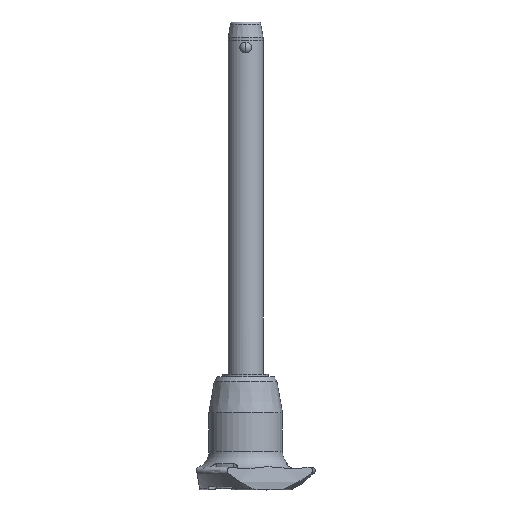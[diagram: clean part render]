
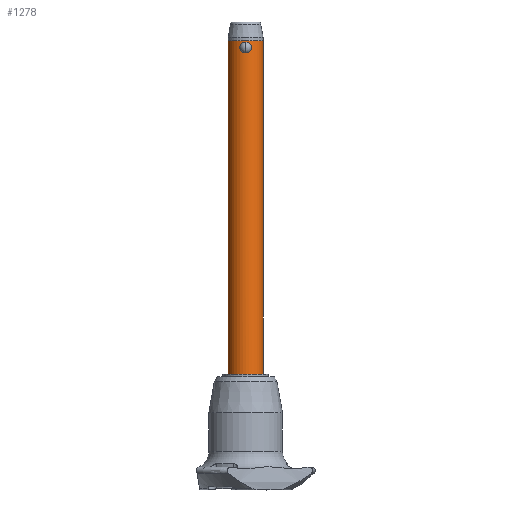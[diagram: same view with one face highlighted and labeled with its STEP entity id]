
A CAD part, front view. The second image highlights one B-rep face of the part: STEP entity #1278.
In plain terms, the highlighted cylindrical face has radius 6 mm (diameter 12 mm), a partial arc.
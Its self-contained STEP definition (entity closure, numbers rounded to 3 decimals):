
#22 = CARTESIAN_POINT ( 'NONE',  ( -0.854, -5.94, 3.53 ) ) ;
#51 = CARTESIAN_POINT ( 'NONE',  ( -0.252, -5.996, 3.697 ) ) ;
#70 = ORIENTED_EDGE ( 'NONE', *, *, #2381, .F. ) ;
#75 = CARTESIAN_POINT ( 'NONE',  ( -1.7, -5.755, 0.895 ) ) ;
#84 = ORIENTED_EDGE ( 'NONE', *, *, #2146, .F. ) ;
#98 = DIRECTION ( 'NONE',  ( 0., 0., 1. ) ) ;
#133 = CARTESIAN_POINT ( 'NONE',  ( 1.279, -5.863, 3.27 ) ) ;
#135 = VECTOR ( 'NONE', #1174, 1000. ) ;
#262 = CARTESIAN_POINT ( 'NONE',  ( -0.967, -5.923, 0.233 ) ) ;
#276 = CARTESIAN_POINT ( 'NONE',  ( -0.25, -6., 0. ) ) ;
#293 = CARTESIAN_POINT ( 'NONE',  ( -1.278, -5.863, 0.437 ) ) ;
#321 = LINE ( 'NONE', #2297, #135 ) ;
#336 = CARTESIAN_POINT ( 'NONE',  ( 1.551, -5.799, 3.018 ) ) ;
#340 = CYLINDRICAL_SURFACE ( 'NONE', #2856, 6. ) ;
#346 = CARTESIAN_POINT ( 'NONE',  ( 0.503, -5.983, 0.045 ) ) ;
#374 = CARTESIAN_POINT ( 'NONE',  ( 1.277, -5.863, 0.437 ) ) ;
#397 = CARTESIAN_POINT ( 'NONE',  ( 6., 0., -110. ) ) ;
#411 = CARTESIAN_POINT ( 'NONE',  ( -6., 0., -110. ) ) ;
#477 = CIRCLE ( 'NONE', #2349, 6. ) ;
#494 = CARTESIAN_POINT ( 'NONE',  ( 0., -6., 0. ) ) ;
#505 = CARTESIAN_POINT ( 'NONE',  ( 0., -6., 3.708 ) ) ;
#517 = CARTESIAN_POINT ( 'NONE',  ( -1.9, -5.692, 2.359 ) ) ;
#528 = DIRECTION ( 'NONE',  ( 1., 0., 0. ) ) ;
#552 = EDGE_CURVE ( 'NONE', #1038, #1584, #1776, .T. ) ;
#556 = CARTESIAN_POINT ( 'NONE',  ( 1.942, -5.677, 2.103 ) ) ;
#564 = VECTOR ( 'NONE', #1305, 1000. ) ;
#571 = CARTESIAN_POINT ( 'NONE',  ( 0., -6., 3.708 ) ) ;
#602 = CARTESIAN_POINT ( 'NONE',  ( 0., 0., -110. ) ) ;
#639 = EDGE_CURVE ( 'NONE', #1584, #1038, #1280, .T. ) ;
#692 = CARTESIAN_POINT ( 'NONE',  ( -1.687, -5.759, 2.809 ) ) ;
#788 = CARTESIAN_POINT ( 'NONE',  ( 0.498, -5.981, 3.652 ) ) ;
#818 = CARTESIAN_POINT ( 'NONE',  ( 1.178, -5.884, 3.346 ) ) ;
#822 = DIRECTION ( 'NONE',  ( 0., 0., -1. ) ) ;
#838 = VERTEX_POINT ( 'NONE', #1122 ) ;
#930 = CARTESIAN_POINT ( 'NONE',  ( -1.89, -5.695, 1.358 ) ) ;
#947 = CARTESIAN_POINT ( 'NONE',  ( -0.853, -5.94, 0.177 ) ) ;
#962 = CARTESIAN_POINT ( 'NONE',  ( -0.966, -5.923, 3.476 ) ) ;
#976 = CARTESIAN_POINT ( 'NONE',  ( 6., 0., -110. ) ) ;
#1017 = FACE_BOUND ( 'NONE', #1953, .T. ) ;
#1038 = VERTEX_POINT ( 'NONE', #1448 ) ;
#1122 = CARTESIAN_POINT ( 'NONE',  ( -6., 0., 4.24 ) ) ;
#1173 = CARTESIAN_POINT ( 'NONE',  ( 0., -6., 0. ) ) ;
#1174 = DIRECTION ( 'NONE',  ( 0., 0., 1. ) ) ;
#1189 = CARTESIAN_POINT ( 'NONE',  ( -1.179, -5.884, 0.363 ) ) ;
#1214 = CARTESIAN_POINT ( 'NONE',  ( 0.252, -5.996, 3.697 ) ) ;
#1228 = CARTESIAN_POINT ( 'NONE',  ( 1.89, -5.695, 2.349 ) ) ;
#1251 = CARTESIAN_POINT ( 'NONE',  ( 0.127, -6., 3.708 ) ) ;
#1278 = ADVANCED_FACE ( 'NONE', ( #2614, #1017 ), #340, .T. ) ;
#1280 = B_SPLINE_CURVE_WITH_KNOTS ( 'NONE', 3,
 ( #494, #1388, #346, #1466, #2337, #2569, #374, #2154, #2130, #1935, #2830, #1712, #2607, #1489, #556, #1228, #1683, #1700, #336, #133, #818, #2141, #2583, #1451, #788, #1214, #1251, #571 ),
 .UNSPECIFIED., .F., .F.,
 ( 4, 2, 2, 2, 2, 2, 2, 2, 2, 2, 2, 2, 2, 4 ),
 ( 0.006, 0.007, 0.007, 0.008, 0.008, 0.008, 0.009, 0.009, 0.01, 0.011, 0.011, 0.011, 0.012, 0.012 ),
 .UNSPECIFIED. ) ;
#1305 = DIRECTION ( 'NONE',  ( 0., 0., 1. ) ) ;
#1388 = CARTESIAN_POINT ( 'NONE',  ( 0.25, -6., 0. ) ) ;
#1401 = CARTESIAN_POINT ( 'NONE',  ( -1.177, -5.884, 3.347 ) ) ;
#1414 = CARTESIAN_POINT ( 'NONE',  ( -1.942, -5.677, 1.604 ) ) ;
#1448 = CARTESIAN_POINT ( 'NONE',  ( 0., -6., 3.708 ) ) ;
#1451 = CARTESIAN_POINT ( 'NONE',  ( 0.62, -5.969, 3.619 ) ) ;
#1466 = CARTESIAN_POINT ( 'NONE',  ( 0.853, -5.94, 0.177 ) ) ;
#1489 = CARTESIAN_POINT ( 'NONE',  ( 1.955, -5.673, 1.979 ) ) ;
#1514 = LINE ( 'NONE', #397, #564 ) ;
#1584 = VERTEX_POINT ( 'NONE', #2552 ) ;
#1586 = CARTESIAN_POINT ( 'NONE',  ( -1.551, -5.799, 0.69 ) ) ;
#1607 = CARTESIAN_POINT ( 'NONE',  ( -1.75, -5.74, 2.7 ) ) ;
#1623 = CARTESIAN_POINT ( 'NONE',  ( -1.46, -5.821, 3.103 ) ) ;
#1683 = CARTESIAN_POINT ( 'NONE',  ( 1.851, -5.708, 2.47 ) ) ;
#1700 = CARTESIAN_POINT ( 'NONE',  ( 1.7, -5.755, 2.812 ) ) ;
#1712 = CARTESIAN_POINT ( 'NONE',  ( 1.901, -5.692, 1.35 ) ) ;
#1726 = DIRECTION ( 'NONE',  ( 0., 0., 1. ) ) ;
#1745 = CARTESIAN_POINT ( 'NONE',  ( 0., 0., -110. ) ) ;
#1776 = B_SPLINE_CURVE_WITH_KNOTS ( 'NONE', 3,
 ( #505, #2707, #51, #2530, #1811, #22, #962, #1401, #2285, #1623, #2269, #692, #1607, #517, #2517, #2743, #1414, #930, #2313, #75, #1586, #293, #1189, #262, #947, #1868, #276, #1173 ),
 .UNSPECIFIED., .F., .F.,
 ( 4, 2, 2, 2, 2, 2, 2, 2, 2, 2, 2, 2, 2, 4 ),
 ( 0., 0., 0.001, 0.001, 0.002, 0.002, 0.002, 0.003, 0.003, 0.004, 0.005, 0.005, 0.005, 0.006 ),
 .UNSPECIFIED. ) ;
#1811 = CARTESIAN_POINT ( 'NONE',  ( -0.62, -5.969, 3.619 ) ) ;
#1823 = EDGE_LOOP ( 'NONE', ( #70, #84, #1984, #2029 ) ) ;
#1868 = CARTESIAN_POINT ( 'NONE',  ( -0.504, -5.983, 0.045 ) ) ;
#1892 = VERTEX_POINT ( 'NONE', #411 ) ;
#1894 = CARTESIAN_POINT ( 'NONE',  ( 6., 0., 4.24 ) ) ;
#1902 = ORIENTED_EDGE ( 'NONE', *, *, #639, .F. ) ;
#1908 = DIRECTION ( 'NONE',  ( 1., 0., 0. ) ) ;
#1933 = EDGE_CURVE ( 'NONE', #2451, #2473, #1514, .T. ) ;
#1935 = CARTESIAN_POINT ( 'NONE',  ( 1.687, -5.758, 0.899 ) ) ;
#1953 = EDGE_LOOP ( 'NONE', ( #2880, #1902 ) ) ;
#1964 = DIRECTION ( 'NONE',  ( 1., 0., 0. ) ) ;
#1984 = ORIENTED_EDGE ( 'NONE', *, *, #1933, .T. ) ;
#2029 = ORIENTED_EDGE ( 'NONE', *, *, #2134, .F. ) ;
#2076 = AXIS2_PLACEMENT_3D ( 'NONE', #1745, #822, #528 ) ;
#2130 = CARTESIAN_POINT ( 'NONE',  ( 1.543, -5.799, 0.699 ) ) ;
#2134 = EDGE_CURVE ( 'NONE', #838, #2473, #477, .T. ) ;
#2141 = CARTESIAN_POINT ( 'NONE',  ( 0.966, -5.923, 3.476 ) ) ;
#2146 = EDGE_CURVE ( 'NONE', #2451, #1892, #2441, .T. ) ;
#2154 = CARTESIAN_POINT ( 'NONE',  ( 1.459, -5.821, 0.604 ) ) ;
#2269 = CARTESIAN_POINT ( 'NONE',  ( -1.541, -5.799, 3.011 ) ) ;
#2285 = CARTESIAN_POINT ( 'NONE',  ( -1.278, -5.863, 3.271 ) ) ;
#2297 = CARTESIAN_POINT ( 'NONE',  ( -6., 0., -110. ) ) ;
#2313 = CARTESIAN_POINT ( 'NONE',  ( -1.852, -5.707, 1.239 ) ) ;
#2337 = CARTESIAN_POINT ( 'NONE',  ( 0.966, -5.923, 0.232 ) ) ;
#2349 = AXIS2_PLACEMENT_3D ( 'NONE', #2835, #1726, #1964 ) ;
#2381 = EDGE_CURVE ( 'NONE', #1892, #838, #321, .T. ) ;
#2441 = CIRCLE ( 'NONE', #2076, 6. ) ;
#2451 = VERTEX_POINT ( 'NONE', #976 ) ;
#2473 = VERTEX_POINT ( 'NONE', #1894 ) ;
#2517 = CARTESIAN_POINT ( 'NONE',  ( -1.955, -5.673, 2.107 ) ) ;
#2530 = CARTESIAN_POINT ( 'NONE',  ( -0.498, -5.981, 3.652 ) ) ;
#2552 = CARTESIAN_POINT ( 'NONE',  ( 0., -6., 0. ) ) ;
#2569 = CARTESIAN_POINT ( 'NONE',  ( 1.178, -5.884, 0.362 ) ) ;
#2583 = CARTESIAN_POINT ( 'NONE',  ( 0.855, -5.94, 3.53 ) ) ;
#2607 = CARTESIAN_POINT ( 'NONE',  ( 1.955, -5.673, 1.6 ) ) ;
#2614 = FACE_OUTER_BOUND ( 'NONE', #1823, .T. ) ;
#2707 = CARTESIAN_POINT ( 'NONE',  ( -0.127, -6., 3.708 ) ) ;
#2743 = CARTESIAN_POINT ( 'NONE',  ( -1.955, -5.673, 1.731 ) ) ;
#2830 = CARTESIAN_POINT ( 'NONE',  ( 1.749, -5.74, 1.007 ) ) ;
#2835 = CARTESIAN_POINT ( 'NONE',  ( 0., 0., 4.24 ) ) ;
#2856 = AXIS2_PLACEMENT_3D ( 'NONE', #602, #98, #1908 ) ;
#2880 = ORIENTED_EDGE ( 'NONE', *, *, #552, .F. ) ;
